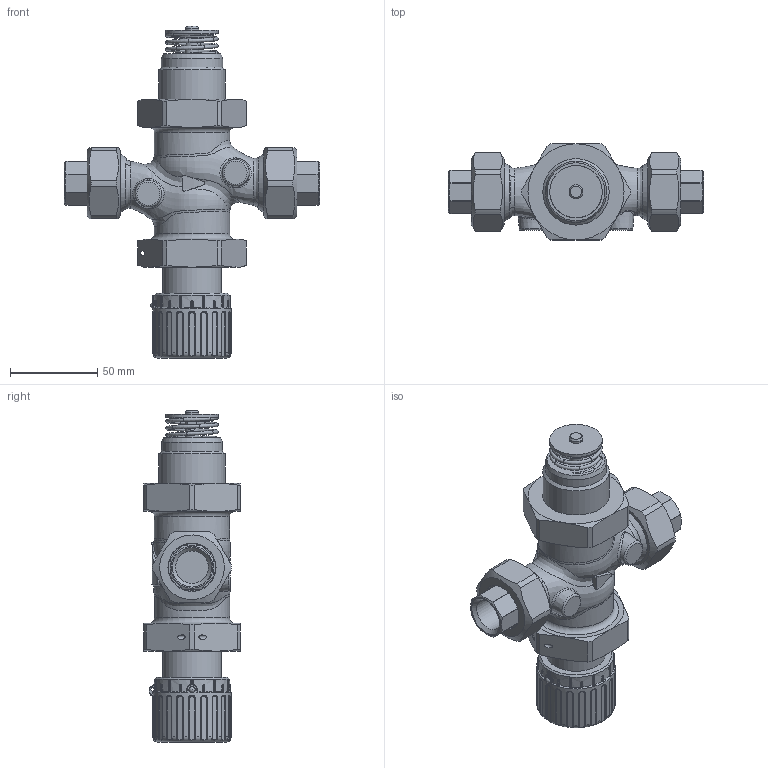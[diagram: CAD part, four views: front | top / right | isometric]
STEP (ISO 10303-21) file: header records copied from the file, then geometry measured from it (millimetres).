
FILE_DESCRIPTION(/* description */ (''),/* implementation_level */ '2;1');
FILE_NAME(/* name */ 'rv122p_dn15_T.stp',/* time_stamp */ '2012-11-05T15:48:59+01:00',/* author */ ('JENIK'),/* organization */ ('LDM'),/* preprocessor_version */ 'ST-DEVELOPER v11',/* originating_system */ 'SIEMENS PLM Software NX 7.0',/* authorisation */ '');
FILE_SCHEMA (('CONFIG_CONTROL_DESIGN'));
Length unit declared in the file: millimetre
Products named in the file (1): jeniA85B0dvg
Bounding box: 146 x 55 x 190 mm (x, y, z)
Volume: 38158.3 mm3; surface area: 64183 mm2
Topology: 6 solids, 7 shells, 633 faces, 1574 edges, 975 vertices
Faces by surface type: cylinder 216, plane 189, bspline 107, torus 70, cone 50, sphere 1
Full cylindrical faces by diameter (mm): 2 x1, 2.5 x1, 8 x2, 18.631 x2, 21 x2, 21.5 x2, 24.5 x1, 27 x2, 27.5 x2, 30 x5, 30.291 x2, 33.249 x2, 33.8 x1, 35 x1, 37 x1, 38 x1, 43 x3
Entity records: 29326 total; most frequent: CARTESIAN_POINT 15753, ORIENTED_EDGE 2880, DIRECTION 2604, EDGE_CURVE 1440, AXIS2_PLACEMENT_3D 1086, VERTEX_POINT 926, EDGE_LOOP 752, ADVANCED_FACE 631
